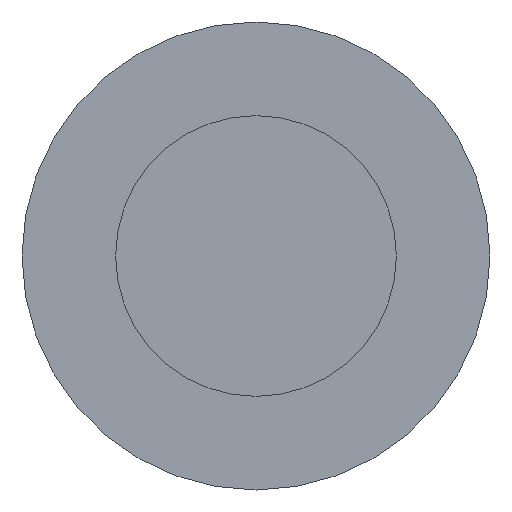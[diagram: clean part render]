
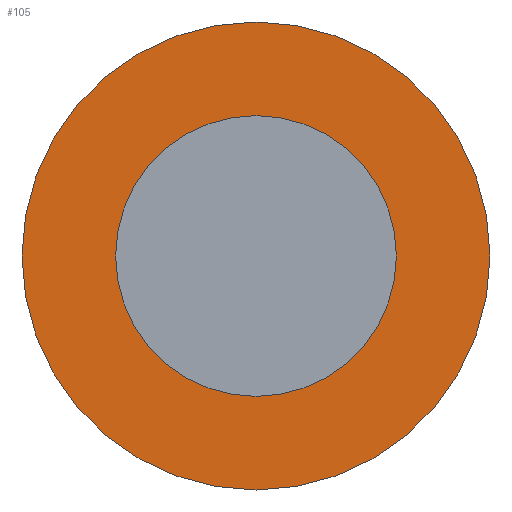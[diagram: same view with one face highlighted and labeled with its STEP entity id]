
A CAD part, front view. The second image highlights one B-rep face of the part: STEP entity #105.
In plain terms, the highlighted planar face has unit normal (0, -1, 0).
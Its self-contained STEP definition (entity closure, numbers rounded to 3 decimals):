
#22 = VERTEX_POINT('',#23);
#23 = CARTESIAN_POINT('',(65.6,113.7,-195.));
#32 = CYLINDRICAL_SURFACE('',#33,5.);
#33 = AXIS2_PLACEMENT_3D('',#34,#35,#36);
#34 = CARTESIAN_POINT('',(60.6,113.7,-195.));
#35 = DIRECTION('',(0.,-1.,-0.));
#36 = DIRECTION('',(1.,0.,0.));
#79 = EDGE_CURVE('',#22,#22,#80,.T.);
#80 = SURFACE_CURVE('',#81,(#86,#93),.PCURVE_S1.);
#81 = CIRCLE('',#82,5.);
#82 = AXIS2_PLACEMENT_3D('',#83,#84,#85);
#83 = CARTESIAN_POINT('',(60.6,113.7,-195.));
#84 = DIRECTION('',(-0.,1.,0.));
#85 = DIRECTION('',(1.,0.,0.));
#86 = PCURVE('',#32,#87);
#87 = DEFINITIONAL_REPRESENTATION('',(#88),#92);
#88 = LINE('',#89,#90);
#89 = CARTESIAN_POINT('',(-0.,0.));
#90 = VECTOR('',#91,1.);
#91 = DIRECTION('',(-1.,0.));
#92 = ( GEOMETRIC_REPRESENTATION_CONTEXT(2) 
PARAMETRIC_REPRESENTATION_CONTEXT() REPRESENTATION_CONTEXT('2D SPACE',''
  ) );
#93 = PCURVE('',#94,#99);
#94 = PLANE('',#95);
#95 = AXIS2_PLACEMENT_3D('',#96,#97,#98);
#96 = CARTESIAN_POINT('',(60.6,113.7,-195.));
#97 = DIRECTION('',(0.,1.,0.));
#98 = DIRECTION('',(0.,-0.,1.));
#99 = DEFINITIONAL_REPRESENTATION('',(#100),#104);
#100 = CIRCLE('',#101,5.);
#101 = AXIS2_PLACEMENT_2D('',#102,#103);
#102 = CARTESIAN_POINT('',(0.,0.));
#103 = DIRECTION('',(0.,1.));
#104 = ( GEOMETRIC_REPRESENTATION_CONTEXT(2) 
PARAMETRIC_REPRESENTATION_CONTEXT() REPRESENTATION_CONTEXT('2D SPACE',''
  ) );
#105 = ADVANCED_FACE('',(#106,#109),#94,.F.);
#106 = FACE_BOUND('',#107,.F.);
#107 = EDGE_LOOP('',(#108));
#108 = ORIENTED_EDGE('',*,*,#79,.T.);
#109 = FACE_BOUND('',#110,.F.);
#110 = EDGE_LOOP('',(#111));
#111 = ORIENTED_EDGE('',*,*,#112,.F.);
#112 = EDGE_CURVE('',#113,#113,#115,.T.);
#113 = VERTEX_POINT('',#114);
#114 = CARTESIAN_POINT('',(63.6,113.7,-195.));
#115 = SURFACE_CURVE('',#116,(#121,#128),.PCURVE_S1.);
#116 = CIRCLE('',#117,3.);
#117 = AXIS2_PLACEMENT_3D('',#118,#119,#120);
#118 = CARTESIAN_POINT('',(60.6,113.7,-195.));
#119 = DIRECTION('',(-0.,1.,0.));
#120 = DIRECTION('',(1.,0.,0.));
#121 = PCURVE('',#94,#122);
#122 = DEFINITIONAL_REPRESENTATION('',(#123),#127);
#123 = CIRCLE('',#124,3.);
#124 = AXIS2_PLACEMENT_2D('',#125,#126);
#125 = CARTESIAN_POINT('',(0.,0.));
#126 = DIRECTION('',(0.,1.));
#127 = ( GEOMETRIC_REPRESENTATION_CONTEXT(2) 
PARAMETRIC_REPRESENTATION_CONTEXT() REPRESENTATION_CONTEXT('2D SPACE',''
  ) );
#128 = PCURVE('',#129,#134);
#129 = CYLINDRICAL_SURFACE('',#130,3.);
#130 = AXIS2_PLACEMENT_3D('',#131,#132,#133);
#131 = CARTESIAN_POINT('',(60.6,91.7,-195.));
#132 = DIRECTION('',(0.,-1.,-0.));
#133 = DIRECTION('',(1.,0.,0.));
#134 = DEFINITIONAL_REPRESENTATION('',(#135),#139);
#135 = LINE('',#136,#137);
#136 = CARTESIAN_POINT('',(-0.,-22.));
#137 = VECTOR('',#138,1.);
#138 = DIRECTION('',(-1.,0.));
#139 = ( GEOMETRIC_REPRESENTATION_CONTEXT(2) 
PARAMETRIC_REPRESENTATION_CONTEXT() REPRESENTATION_CONTEXT('2D SPACE',''
  ) );
